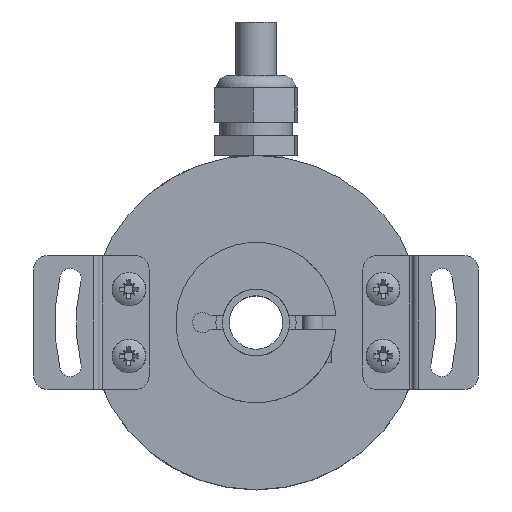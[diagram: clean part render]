
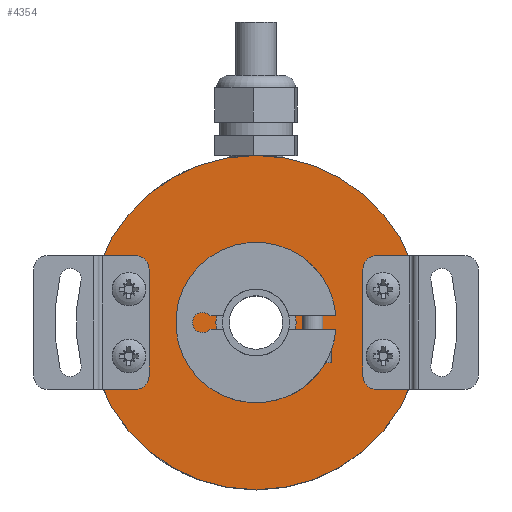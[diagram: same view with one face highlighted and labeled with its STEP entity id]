
A CAD part, top view. The second image highlights one B-rep face of the part: STEP entity #4354.
In plain terms, the highlighted planar face has unit normal (0, 0, 1).
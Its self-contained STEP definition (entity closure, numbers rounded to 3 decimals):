
#4354=ADVANCED_FACE('',(#7361,#7363,#7365,#7367,#7369,#7371),#7373,.T.);
#7361=FACE_BOUND('',#7362,.T.);
#7362=EDGE_LOOP('',(#9541));
#7363=FACE_BOUND('',#7364,.T.);
#7364=EDGE_LOOP('',(#9542));
#7365=FACE_BOUND('',#7366,.T.);
#7366=EDGE_LOOP('',(#9543));
#7367=FACE_BOUND('',#7368,.T.);
#7368=EDGE_LOOP('',(#9544));
#7369=FACE_BOUND('',#7370,.T.);
#7370=EDGE_LOOP('',(#9545));
#7371=FACE_BOUND('',#7372,.T.);
#7372=EDGE_LOOP('',(#9546));
#7373=PLANE('',#7374);
#7374=AXIS2_PLACEMENT_3D('',#7375,#7376,#7377);
#7375=CARTESIAN_POINT('',(0.,0.,4.5));
#7376=DIRECTION('',(0.,0.,1.));
#7377=DIRECTION('',(1.,0.,0.));
#9541=ORIENTED_EDGE('',*,*,#10508,.T.);
#9542=ORIENTED_EDGE('',*,*,#10509,.T.);
#9543=ORIENTED_EDGE('',*,*,#10500,.T.);
#9544=ORIENTED_EDGE('',*,*,#10501,.T.);
#9545=ORIENTED_EDGE('',*,*,#10507,.T.);
#9546=ORIENTED_EDGE('',*,*,#10506,.F.);
#10500=EDGE_CURVE('',#12036,#12036,#12037,.T.);
#10501=EDGE_CURVE('',#12038,#12038,#12039,.T.);
#10506=EDGE_CURVE('',#12048,#12048,#12049,.T.);
#10507=EDGE_CURVE('',#12050,#12050,#12051,.T.);
#10508=EDGE_CURVE('',#12052,#12052,#12053,.T.);
#10509=EDGE_CURVE('',#12054,#12054,#12055,.T.);
#12036=VERTEX_POINT('',#16179);
#12037=CIRCLE('',#16180,0.8);
#12038=VERTEX_POINT('',#16184);
#12039=CIRCLE('',#16185,0.8);
#12048=VERTEX_POINT('',#16209);
#12049=CIRCLE('',#16210,6.);
#12050=VERTEX_POINT('',#16214);
#12051=CIRCLE('',#16215,0.8);
#12052=VERTEX_POINT('',#16219);
#12053=CIRCLE('',#16220,25.);
#12054=VERTEX_POINT('',#16224);
#12055=CIRCLE('',#16225,0.8);
#16179=CARTESIAN_POINT('',(19.8,5.,4.5));
#16180=AXIS2_PLACEMENT_3D('',#16181,#16182,#16183);
#16181=CARTESIAN_POINT('',(19.,5.,4.5));
#16182=DIRECTION('',(0.,0.,-1.));
#16183=DIRECTION('',(1.,0.,0.));
#16184=CARTESIAN_POINT('',(-18.2,-5.,4.5));
#16185=AXIS2_PLACEMENT_3D('',#16186,#16187,#16188);
#16186=CARTESIAN_POINT('',(-19.,-5.,4.5));
#16187=DIRECTION('',(0.,0.,-1.));
#16188=DIRECTION('',(1.,0.,0.));
#16209=CARTESIAN_POINT('',(6.,0.,4.5));
#16210=AXIS2_PLACEMENT_3D('',#16211,#16212,#16213);
#16211=CARTESIAN_POINT('',(0.,0.,4.5));
#16212=DIRECTION('',(0.,0.,1.));
#16213=DIRECTION('',(1.,0.,0.));
#16214=CARTESIAN_POINT('',(-18.2,5.,4.5));
#16215=AXIS2_PLACEMENT_3D('',#16216,#16217,#16218);
#16216=CARTESIAN_POINT('',(-19.,5.,4.5));
#16217=DIRECTION('',(0.,0.,-1.));
#16218=DIRECTION('',(1.,0.,0.));
#16219=CARTESIAN_POINT('',(25.,0.,4.5));
#16220=AXIS2_PLACEMENT_3D('',#16221,#16222,#16223);
#16221=CARTESIAN_POINT('',(0.,0.,4.5));
#16222=DIRECTION('',(0.,0.,1.));
#16223=DIRECTION('',(1.,0.,0.));
#16224=CARTESIAN_POINT('',(19.8,-5.,4.5));
#16225=AXIS2_PLACEMENT_3D('',#16226,#16227,#16228);
#16226=CARTESIAN_POINT('',(19.,-5.,4.5));
#16227=DIRECTION('',(0.,0.,-1.));
#16228=DIRECTION('',(1.,0.,0.));
